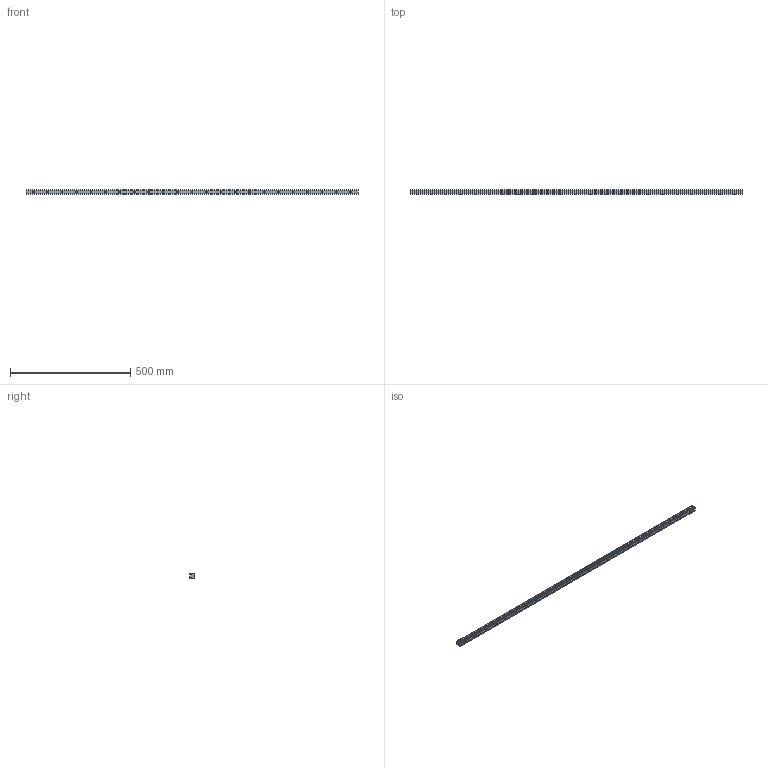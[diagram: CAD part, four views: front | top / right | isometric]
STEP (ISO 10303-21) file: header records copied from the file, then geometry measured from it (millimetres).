
FILE_DESCRIPTION (( 'STEP AP203' ), '1' );
FILE_NAME ('L1018.20R-1380.step', '2023-08-06T09:08:21', ( '' ), ( '' ), 'SwSTEP 2.0', 'SolidWorks 2019', '' );
FILE_SCHEMA (( 'CONFIG_CONTROL_DESIGN' ));
Length unit declared in the file: millimetre
Products named in the file (1): L1018.20R-1380
Bounding box: 1380 x 19.3 x 20 mm (x, y, z)
Volume: 437637 mm3; surface area: 117108 mm2
Topology: 1 solids, 1 shells, 236 faces, 541 edges, 307 vertices
Faces by surface type: cylinder 95, cone 92, plane 49
Entity records: 6380 total; most frequent: DIRECTION 1205, CARTESIAN_POINT 1039, ORIENTED_EDGE 990, EDGE_CURVE 495, AXIS2_PLACEMENT_3D 473, VERTEX_POINT 307, EDGE_LOOP 282, LINE 259
